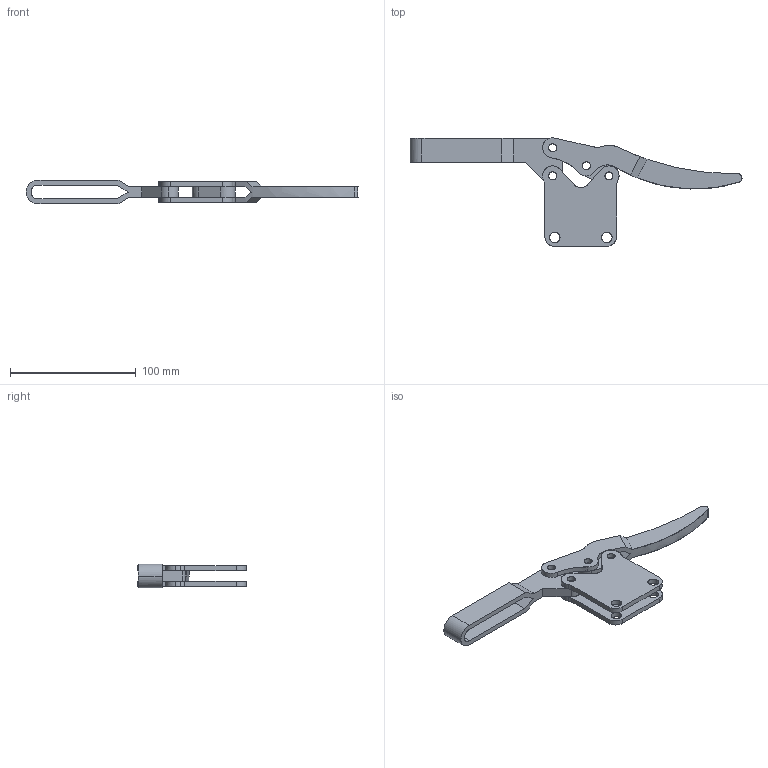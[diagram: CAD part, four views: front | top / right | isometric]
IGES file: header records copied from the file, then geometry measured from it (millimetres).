
Start section: Comment
Global section: file name: 20236.igs; native system:  By Spatial Corp.; preprocessor: XPlus PS/IGES 3.0; author: Author; organization: Title; date: 20050217.080535; units: inch
Bounding box: 263.59 x 86.1 x 19 mm (x, y, z)
Surface area: 38749.3 mm2 (no closed solid volume)
Topology: 0 solids, 0 shells, 120 faces, 668 edges, 668 vertices
Faces by surface type: revolution 74, extrusion 46
